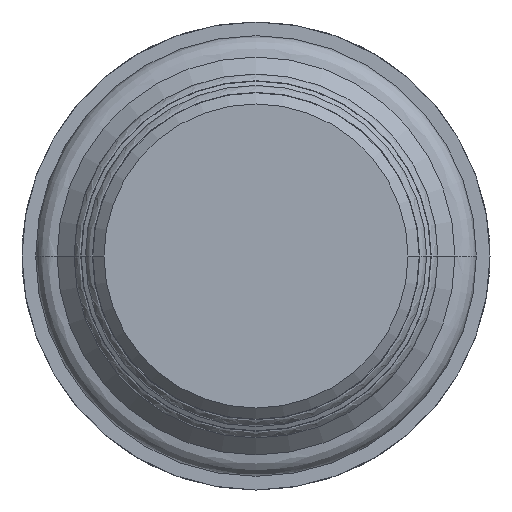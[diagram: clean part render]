
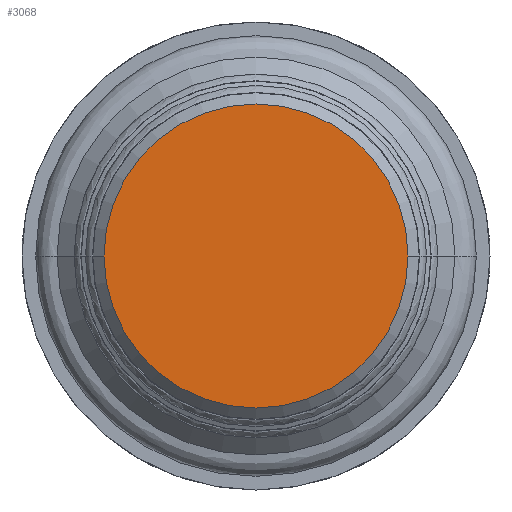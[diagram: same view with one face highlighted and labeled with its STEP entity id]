
A CAD part, front view. The second image highlights one B-rep face of the part: STEP entity #3068.
In plain terms, the highlighted planar face has unit normal (0, -1, 0).
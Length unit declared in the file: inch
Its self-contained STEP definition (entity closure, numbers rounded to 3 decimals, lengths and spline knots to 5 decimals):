
#1057=CARTESIAN_POINT('',(0.,-2.787,0.));
#1058=DIRECTION('',(0.,1.,0.));
#1059=DIRECTION('',(-1.,0.,0.));
#1060=AXIS2_PLACEMENT_3D('',#1057,#1058,#1059);
#1075=CARTESIAN_POINT('',(0.,-2.787,0.));
#1076=DIRECTION('',(0.,-1.,0.));
#1077=DIRECTION('',(-1.,0.,0.));
#1078=AXIS2_PLACEMENT_3D('',#1075,#1076,#1077);
#1171=CARTESIAN_POINT('',(-0.406,-2.787,0.));
#1172=CARTESIAN_POINT('',(0.406,-2.787,0.));
#1173=VERTEX_POINT('',#1171);
#1174=VERTEX_POINT('',#1172);
#3058=CARTESIAN_POINT('',(0.,-2.787,0.));
#3059=DIRECTION('',(0.,1.,0.));
#3060=DIRECTION('',(1.,0.,0.));
#3061=AXIS2_PLACEMENT_3D('',#3058,#3059,#3060);
#3062=PLANE('',#3061);
#3064=ORIENTED_EDGE('',*,*,#3063,.F.);
#3065=ORIENTED_EDGE('',*,*,#3048,.T.);
#3066=EDGE_LOOP('',(#3064,#3065));
#3067=FACE_OUTER_BOUND('',#3066,.F.);
#3068=ADVANCED_FACE('',(#3067),#3062,.F.);
#1061=CIRCLE('',#1060,0.406);
#1079=CIRCLE('',#1078,0.406);
#3048=EDGE_CURVE('',#1173,#1174,#1061,.T.);
#3063=EDGE_CURVE('',#1173,#1174,#1079,.T.);
